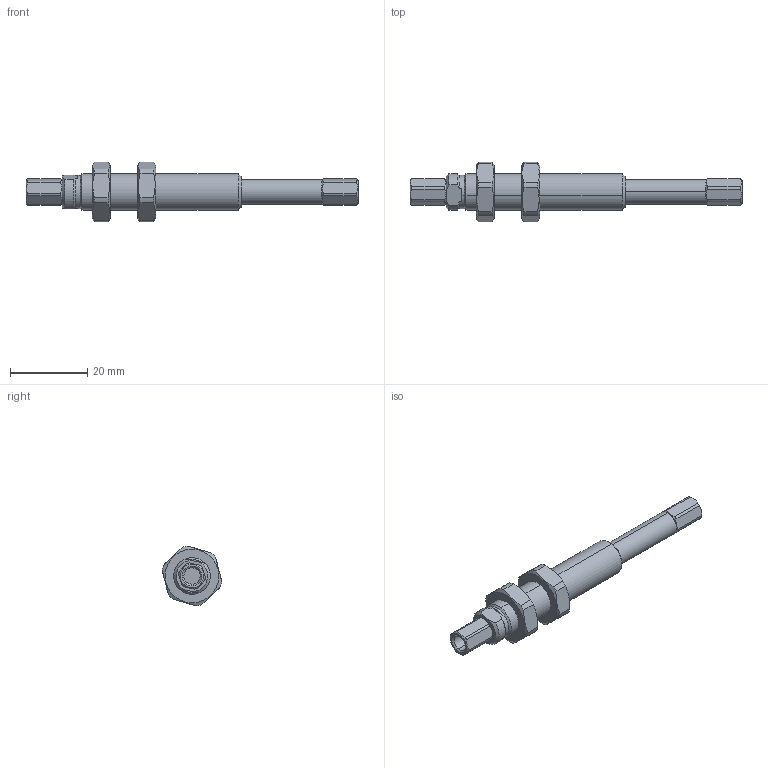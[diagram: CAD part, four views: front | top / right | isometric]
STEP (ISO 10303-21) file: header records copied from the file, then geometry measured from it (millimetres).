
FILE_DESCRIPTION (( 'STEP AP203' ), '1' );
FILE_NAME ('LC10X20-PUBLIC.STEP', '2011-06-24T14:21:59', ( '' ), ( '' ), 'SwSTEP 2.0', 'SolidWorks 2011', '' );
FILE_SCHEMA (( 'CONFIG_CONTROL_DESIGN' ));
Length unit declared in the file: inch
Products named in the file (1): LC10X20-PUBLIC
Bounding box: 86.23 x 15.46 x 15.56 mm (x, y, z)
Volume: 5265.6 mm3; surface area: 3114.1 mm2
Topology: 1 solids, 1 shells, 108 faces, 281 edges, 184 vertices
Faces by surface type: cylinder 40, plane 39, cone 28, bspline 1
Entity records: 6947 total; most frequent: CARTESIAN_POINT 4260, ORIENTED_EDGE 562, DIRECTION 532, EDGE_CURVE 281, AXIS2_PLACEMENT_3D 217, VERTEX_POINT 184, EDGE_LOOP 117, CIRCLE 109
